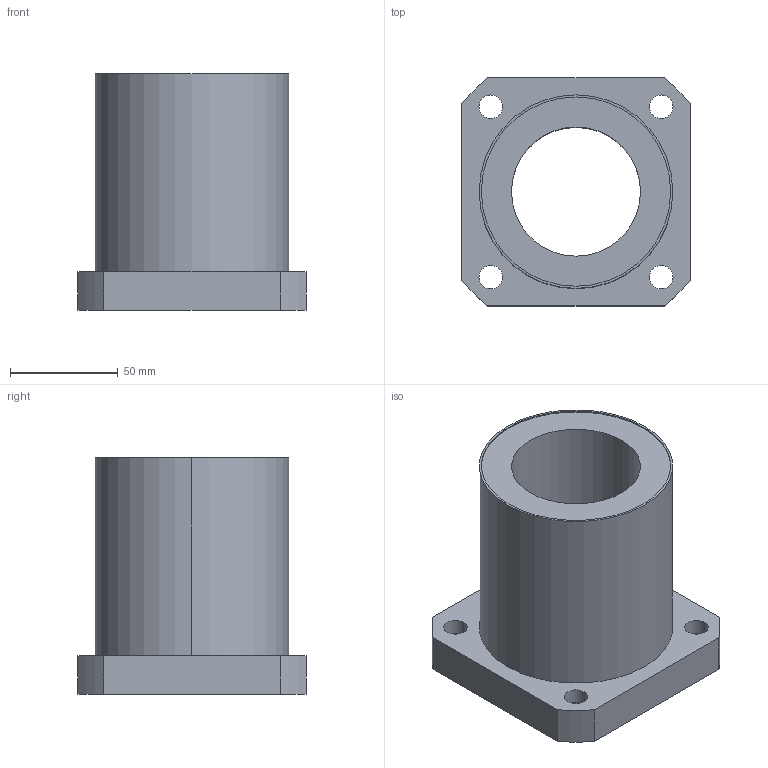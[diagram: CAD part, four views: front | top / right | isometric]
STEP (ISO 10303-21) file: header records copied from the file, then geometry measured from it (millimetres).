
FILE_DESCRIPTION((''),'2;1');
FILE_NAME('C:\Documents and Settings\ｿﾀﾀ蠑ｷ1\ｹﾙﾅﾁ ﾈｭｸ饅\ｺﾎﾇｰﾆﾄﾀﾏ\ﾁｦﾇｰ\LMK__UU\LMK60UU.stp','2005-06-15T09:50:18',('ｿﾀﾀ蠑ｷ1'),(''),'Autodesk Inventor 9','Autodesk Inventor 9','');
FILE_SCHEMA(('AUTOMOTIVE_DESIGN { 1 0 10303 214 1 1 1 1 }'));
Length unit declared in the file: millimetre
Products named in the file (1): LMK__
Bounding box: 106 x 106 x 110 mm (x, y, z)
Volume: 453606 mm3; surface area: 72909.7 mm2
Topology: 1 solids, 1 shells, 44 faces, 102 edges, 68 vertices
Faces by surface type: cylinder 30, plane 14
Entity records: 1329 total; most frequent: DIRECTION 252, CARTESIAN_POINT 215, ORIENTED_EDGE 204, AXIS2_PLACEMENT_3D 105, EDGE_CURVE 102, VERTEX_POINT 68, EDGE_LOOP 62, CIRCLE 60
